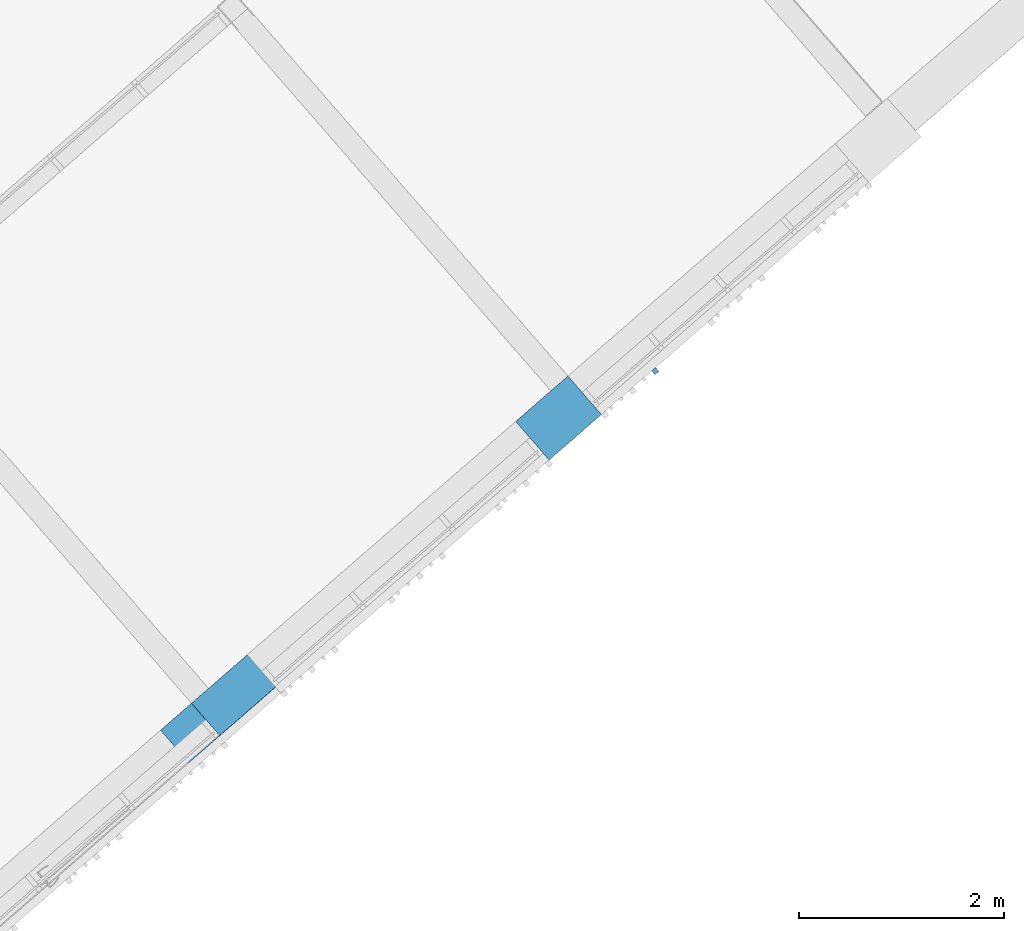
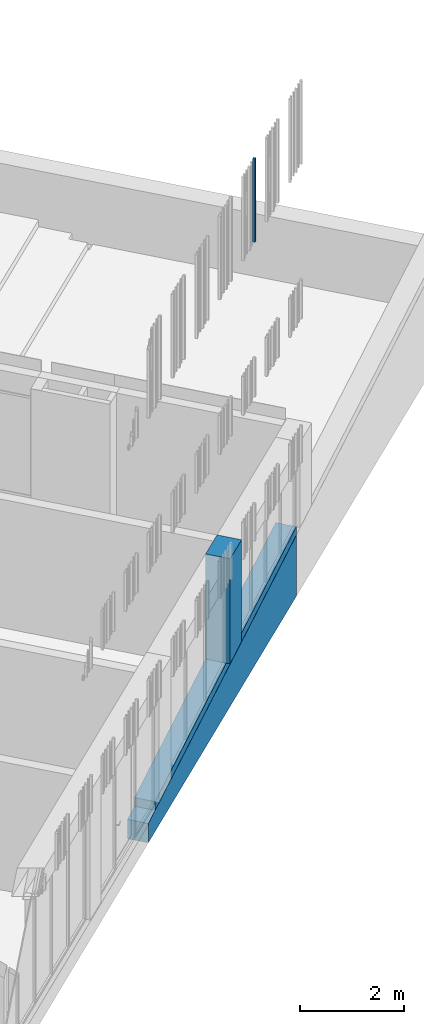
# One storey, part 73 of 124: 4 walls.
"""IFC2X3 building model written with IfcOpenShell, lengths in millimetres."""

from ifc_helpers import new_model, entity, si_unit, converted_unit, derived_unit, money_unit, direction, frame, origin_with_axes, place, context, subcontext, project, spatial, faceted_brep, material, material_list, type_object, element, save


model = new_model("IFC2X3")

# Units and contexts
model_context = context("Model", 3, precision=1e-05, world=origin_with_axes(), true_north=direction((0.0, 1.0)))
body_context = subcontext(model_context, "Body", "Model", "MODEL_VIEW")
ifc_project = project(units=[si_unit("LENGTHUNIT", "METRE", prefix="MILLI"), si_unit("AREAUNIT", "SQUARE_METRE"), si_unit("VOLUMEUNIT", "CUBIC_METRE"), converted_unit("PLANEANGLEUNIT", "DEGREE", entity("IfcPlaneAngleMeasure", 0.0174532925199), si_unit("PLANEANGLEUNIT", "RADIAN"), dimensions=[0, 0, 0, 0, 0, 0, 0]), si_unit("SOLIDANGLEUNIT", "STERADIAN"), money_unit("EUR"), converted_unit("TIMEUNIT", "Year", entity("IfcTimeMeasure", 31556926.0), si_unit("TIMEUNIT", "SECOND"), dimensions=[0, 0, 1, 0, 0, 0, 0]), si_unit("MASSUNIT", "GRAM", prefix="KILO"), si_unit("THERMODYNAMICTEMPERATUREUNIT", "DEGREE_CELSIUS"), si_unit("LUMINOUSINTENSITYUNIT", "LUMEN"), si_unit("ENERGYUNIT", "JOULE", prefix="MEGA"), derived_unit("THERMALCONDUCTANCEUNIT", [(si_unit("POWERUNIT", "WATT"), 1), (si_unit("LENGTHUNIT", "METRE"), -1), (si_unit("THERMODYNAMICTEMPERATUREUNIT", "KELVIN"), -1)]), derived_unit("SPECIFICHEATCAPACITYUNIT", [(si_unit("ENERGYUNIT", "JOULE"), 1), (si_unit("MASSUNIT", "GRAM", prefix="KILO"), -1), (si_unit("THERMODYNAMICTEMPERATUREUNIT", "KELVIN"), -1)]), derived_unit("MASSDENSITYUNIT", [(si_unit("MASSUNIT", "GRAM", prefix="KILO"), 1), (si_unit("VOLUMEUNIT", "CUBIC_METRE"), -1)])], contexts=[model_context])

# Site, building, storey
site_placement = place(None, origin_with_axes())
site = spatial("IfcSite", under=ifc_project, at=site_placement, Name="Site", CompositionType="ELEMENT")
building_placement = place(site_placement, origin_with_axes())
building = spatial("IfcBuilding", under=site, at=building_placement, Name="Building", CompositionType="ELEMENT")
storey_placement = place(building_placement, frame((0.0, 0.0, -1615.0), z_axis=(0.0, 0.0, 1.0), x_axis=(1.0, 0.0, 0.0)))
storey = spatial("IfcBuildingStorey", under=building, at=storey_placement, Name="0  korrus", CompositionType="ELEMENT", Elevation=-1615.0)

# Walls
ifc_material_1 = material(Name="Membraan - Veekindel")
ifc_material_2 = material(Name="Soojustus - Plastik Kõva")
ifc_material_3 = material(Name="Raudbetoon - Konstruktsioon")
ifc_material_4 = material(Name="Krohv - Lubjakivi")
ifc_material_list_1 = material_list([ifc_material_1, ifc_material_1, ifc_material_2, ifc_material_2, ifc_material_3, ifc_material_4])
wall_type_1 = type_object("IfcWallType", Name="VS-04", PredefinedType="NOTDEFINED")
wall_1_placement = place(storey_placement, frame((171804.393813, 94669.5544787, -620.0), z_axis=(0.0, 0.0, 1.0), x_axis=(-0.754709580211, -0.656059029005, 0.0)))
element("IfcWall", 1, at=wall_1_placement, inside=storey, type_object=wall_type_1, material=ifc_material_list_1, Name="VS-03", context=body_context, shape_type="Brep", body=[
    faceted_brep([(4.54747350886e-10, 415.0, 1425.80345462), (0.0, 420.0, 1425.80345461), (0.0, 420.0, 0.0), (0.0, 415.0, 0.0), (8710.00032232, 420.0, 450.581196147), (8710.00032232, 415.0, 450.581196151), (8710.00032232, 420.0, 0.0), (8710.00032232, 415.0, 0.0)], [[[0, 1, 2, 3]], [[4, 1, 0, 5]], [[1, 4, 6, 2]], [[2, 6, 7, 3]], [[5, 0, 3, 7]], [[4, 5, 7, 6]]]),
    faceted_brep([(8.52651282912e-10, 410.0, 1425.80345462), (4.54747350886e-10, 415.0, 1425.80345462), (0.0, 415.0, 0.0), (0.0, 410.0, 0.0), (8710.00032232, 415.0, 450.581196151), (8710.00032232, 410.0, 450.581196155), (8710.00032232, 415.0, 0.0), (8710.00032232, 410.0, 0.0)], [[[0, 1, 2, 3]], [[4, 1, 0, 5]], [[1, 4, 6, 2]], [[2, 6, 7, 3]], [[5, 0, 3, 7]], [[4, 5, 7, 6]]]),
    faceted_brep([(5.42854650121e-09, 360.0, 1425.80345466), (8.52651282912e-10, 410.0, 1425.80345462), (0.0, 410.0, 0.0), (0.0, 360.0, 0.0), (8710.00032232, 410.0, 450.581196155), (8710.00032232, 360.0, 450.581196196), (8710.00032232, 410.0, 0.0), (8710.00032232, 360.0, 0.0)], [[[0, 1, 2, 3]], [[4, 1, 0, 5]], [[1, 4, 6, 2]], [[2, 6, 7, 3]], [[5, 0, 3, 7]], [[4, 5, 7, 6]]]),
    faceted_brep([(1.90425453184e-08, 210.0, 1425.80345478), (5.42854650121e-09, 360.0, 1425.80345466), (0.0, 360.0, 0.0), (0.0, 210.0, 0.0), (8710.00032232, 360.0, 450.581196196), (8710.00032232, 210.0, 450.581196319), (8710.00032232, 360.0, 0.0), (8710.00032232, 210.0, 0.0)], [[[0, 1, 2, 3]], [[4, 1, 0, 5]], [[1, 4, 6, 2]], [[2, 6, 7, 3]], [[5, 0, 3, 7]], [[4, 5, 7, 6]]]),
    faceted_brep([(3.72324393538e-08, 9.99999999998, 1425.80345494), (1.90425453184e-08, 210.0, 1425.80345478), (0.0, 210.0, 0.0), (0.0, 10.0, 0.0), (8710.00032232, 210.0, 450.581196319), (8710.00032232, 9.99999999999, 450.581196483), (8710.00032232, 210.0, 0.0), (8710.00032232, 9.99999999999, 0.0)], [[[0, 1, 2, 3]], [[4, 1, 0, 5]], [[1, 4, 6, 2]], [[2, 6, 7, 3]], [[5, 0, 3, 7]], [[4, 5, 7, 6]]]),
    faceted_brep([(3.81135123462e-08, 0.0, 1425.80345495), (3.72324393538e-08, 9.99999999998, 1425.80345494), (0.0, 10.0, 0.0), (0.0, 0.0, 0.0), (8710.00032232, 9.99999999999, 450.581196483), (8710.00032232, 0.0, 450.581196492), (8710.00032232, 9.99999999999, 0.0), (8710.00032232, 0.0, 0.0)], [[[0, 1, 2, 3]], [[4, 1, 0, 5]], [[1, 4, 6, 2]], [[2, 6, 7, 3]], [[5, 0, 3, 7]], [[4, 5, 7, 6]]]),
])
ifc_material_5 = material(Name="Puit - Konstruktsioon")
ifc_material_6 = material(Name="Õhkvahe")
ifc_material_7 = material(Name="Raudbetoon - Toode")
ifc_material_list_2 = material_list([ifc_material_5, ifc_material_5, ifc_material_6, ifc_material_2, ifc_material_2, ifc_material_7, ifc_material_4])
wall_type_2 = type_object("IfcWallType", Name="VS-01", PredefinedType="NOTDEFINED")
wall_2_placement = place(storey_placement, frame((169200.645519, 92406.150618, 250.0), z_axis=(0.0, 0.0, 1.0), x_axis=(-0.754709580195, -0.656059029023, 0.0)))
element("IfcWall", 2, at=wall_2_placement, inside=storey, type_object=wall_type_2, material=ifc_material_list_2, Name="VS-01", context=body_context, shape_type="Brep", body=[
    faceted_brep([(675.0, 497.0, 293.944444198), (0.0, 497.0, 369.521367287), (0.0, 497.0, 2750.0), (675.0, 497.0, 2750.0), (0.0, 475.0, 369.521367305), (675.0, 475.0, 293.944444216), (0.0, 475.0, 2750.0), (675.0, 475.0, 2750.0)], [[[0, 1, 2, 3]], [[4, 1, 0, 5]], [[1, 4, 6, 2]], [[6, 7, 3, 2]], [[5, 0, 3, 7]], [[4, 5, 7, 6]]]),
    faceted_brep([(675.0, 475.0, 293.944444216), (0.0, 475.0, 369.521367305), (0.0, 475.0, 2750.0), (675.0, 475.0, 2750.0), (0.0, 455.0, 369.521367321), (675.0, 455.0, 293.944444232), (0.0, 455.0, 2750.0), (675.0, 455.0, 2750.0)], [[[0, 1, 2, 3]], [[4, 1, 0, 5]], [[1, 4, 6, 2]], [[6, 7, 3, 2]], [[5, 0, 3, 7]], [[4, 5, 7, 6]]]),
    faceted_brep([(675.0, 455.0, 293.944444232), (0.0, 455.0, 369.521367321), (0.0, 455.0, 2750.0), (675.0, 455.0, 2750.0), (0.0, 410.0, 369.521367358), (675.0, 410.0, 293.944444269), (0.0, 410.0, 2750.0), (675.0, 410.0, 2750.0)], [[[0, 1, 2, 3]], [[4, 1, 0, 5]], [[1, 4, 6, 2]], [[6, 7, 3, 2]], [[5, 0, 3, 7]], [[4, 5, 7, 6]]]),
    faceted_brep([(675.0, 410.0, 293.944444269), (0.0, 410.0, 369.521367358), (0.0, 410.0, 2750.0), (675.0, 410.0, 2750.0), (0.0, 360.0, 369.521367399), (675.0, 360.0, 293.94444431), (0.0, 360.0, 2750.0), (675.0, 360.0, 2750.0)], [[[0, 1, 2, 3]], [[4, 1, 0, 5]], [[1, 4, 6, 2]], [[6, 7, 3, 2]], [[5, 0, 3, 7]], [[4, 5, 7, 6]]]),
    faceted_brep([(675.0, 360.0, 293.94444431), (0.0, 360.0, 369.521367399), (0.0, 360.0, 2750.0), (675.0, 360.0, 2750.0), (0.0, 210.0, 369.521367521), (675.0, 210.0, 293.944444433), (0.0, 210.0, 2750.0), (675.0, 210.0, 2750.0)], [[[0, 1, 2, 3]], [[4, 1, 0, 5]], [[1, 4, 6, 2]], [[6, 7, 3, 2]], [[5, 0, 3, 7]], [[4, 5, 7, 6]]]),
    faceted_brep([(675.0, 210.0, 293.944444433), (0.0, 210.0, 369.521367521), (0.0, 210.0, 2750.0), (675.0, 210.0, 2750.0), (0.0, 10.0, 369.521367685), (675.0, 10.0, 293.944444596), (0.0, 10.0, 2750.0), (675.0, 10.0, 2750.0)], [[[0, 1, 2, 3]], [[4, 1, 0, 5]], [[1, 4, 6, 2]], [[6, 7, 3, 2]], [[5, 0, 3, 7]], [[4, 5, 7, 6]]]),
    faceted_brep([(675.0, 10.0, 293.944444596), (0.0, 10.0, 369.521367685), (0.0, 10.0, 2750.0), (675.0, 10.0, 2750.0), (0.0, 0.0, 369.521367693), (675.0, 0.0, 293.944444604), (0.0, 0.0, 2750.0), (675.0, 0.0, 2750.0)], [[[0, 1, 2, 3]], [[4, 1, 0, 5]], [[1, 4, 6, 2]], [[6, 7, 3, 2]], [[5, 0, 3, 7]], [[4, 5, 7, 6]]]),
])
ifc_material_8 = material(Name="Site specified")
wall_type_3 = type_object("IfcWallType", Name="Puitfassaadi ribistik", PredefinedType="NOTDEFINED")
wall_3_placement = place(storey_placement, frame((170052.032124, 92454.5929203, 9530.0), z_axis=(0.0, 0.0, 1.0), x_axis=(-0.754709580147, -0.656059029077, 0.0)))
element("IfcWall", 3, at=wall_3_placement, inside=storey, type_object=wall_type_3, material=ifc_material_8, Name="Site specified", context=body_context, shape_type="Brep", body=[
    faceted_brep([(25.0, 25.0, 1950.0), (25.0, 25.0, 0.0), (-25.0, 25.0, 0.0), (-25.0, 25.0, 1950.0), (25.0, -25.0, 1950.0), (25.0, -25.0, 0.0), (-25.0, -25.0, 0.0), (-25.0, -25.0, 1950.0)], [[[0, 1, 2, 3]], [[4, 5, 1, 0]], [[2, 1, 5, 6]], [[3, 2, 6, 7]], [[4, 0, 3, 7]], [[7, 6, 5, 4]]]),
])
ifc_material_9 = material(Name="Plaat - Sein")
ifc_material_list_3 = material_list([ifc_material_4, ifc_material_3, ifc_material_2, ifc_material_2, ifc_material_9])
wall_type_4 = type_object("IfcWallType", Name="VS-05", PredefinedType="NOTDEFINED")
wall_4_placement = place(storey_placement, frame((165532.756958, 89217.703736, -200.0), z_axis=(0.0, 0.0, 1.0), x_axis=(0.754709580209, 0.656059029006, 0.0)))
element("IfcWall", 4, at=wall_4_placement, inside=storey, type_object=wall_type_4, material=ifc_material_list_3, Name="VS-05", context=body_context, shape_type="Brep", body=[
    faceted_brep([(0.0, -10.0, 75.3675212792), (8310.00032228, -10.0, 1005.80345495), (8310.00032228, -10.0, 1205.80345495), (0.0, -10.0, 275.367521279), (8310.00032228, 0.0, 1005.80345495), (0.0, 0.0, 75.3675212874), (8310.00032228, 0.0, 1205.80345495), (0.0, 0.0, 275.367521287)], [[[0, 1, 2, 3]], [[4, 1, 0, 5]], [[1, 4, 6, 2]], [[7, 3, 2, 6]], [[5, 0, 3, 7]], [[4, 5, 7, 6]]]),
    faceted_brep([(0.0, -210.0, 75.3675211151), (8310.00032228, -210.0, 1005.80345478), (8310.00032228, -210.0, 1205.80345478), (0.0, -210.0, 275.367521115), (8310.00032228, -10.0, 1005.80345495), (0.0, -10.0, 75.3675212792), (8310.00032228, -10.0, 1205.80345495), (0.0, -10.0, 275.367521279)], [[[0, 1, 2, 3]], [[4, 1, 0, 5]], [[1, 4, 6, 2]], [[7, 3, 2, 6]], [[5, 0, 3, 7]], [[4, 5, 7, 6]]]),
    faceted_brep([(0.0, -360.0, 75.367520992), (8310.00032228, -360.0, 1005.80345466), (8310.00032228, -360.0, 1205.80345466), (0.0, -360.0, 275.367520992), (8310.00032228, -210.0, 1005.80345478), (0.0, -210.0, 75.3675211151), (8310.00032228, -210.0, 1205.80345478), (0.0, -210.0, 275.367521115)], [[[0, 1, 2, 3]], [[4, 1, 0, 5]], [[1, 4, 6, 2]], [[7, 3, 2, 6]], [[5, 0, 3, 7]], [[4, 5, 7, 6]]]),
    faceted_brep([(0.0, -410.0, 75.367520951), (8310.00032228, -410.0, 1005.80345462), (8310.00032228, -410.0, 1205.80345462), (0.0, -410.0, 275.367520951), (8310.00032228, -360.0, 1005.80345466), (0.0, -360.0, 75.367520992), (8310.00032228, -360.0, 1205.80345466), (0.0, -360.0, 275.367520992)], [[[0, 1, 2, 3]], [[4, 1, 0, 5]], [[1, 4, 6, 2]], [[7, 3, 2, 6]], [[5, 0, 3, 7]], [[4, 5, 7, 6]]]),
    faceted_brep([(0.0, -418.0, 75.3675209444), (8310.00032228, -418.0, 1005.80345461), (8310.00032228, -418.0, 1205.80345461), (0.0, -418.0, 275.367520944), (8310.00032228, -410.0, 1005.80345462), (0.0, -410.0, 75.367520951), (8310.00032228, -410.0, 1205.80345462), (0.0, -410.0, 275.367520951)], [[[0, 1, 2, 3]], [[4, 1, 0, 5]], [[1, 4, 6, 2]], [[7, 3, 2, 6]], [[5, 0, 3, 7]], [[4, 5, 7, 6]]]),
])

save(model, "model.ifc")
